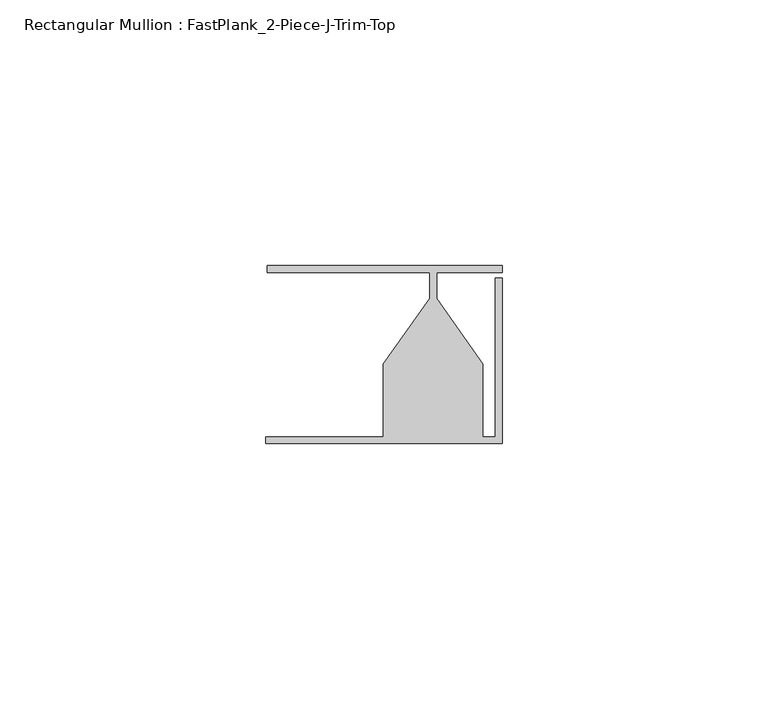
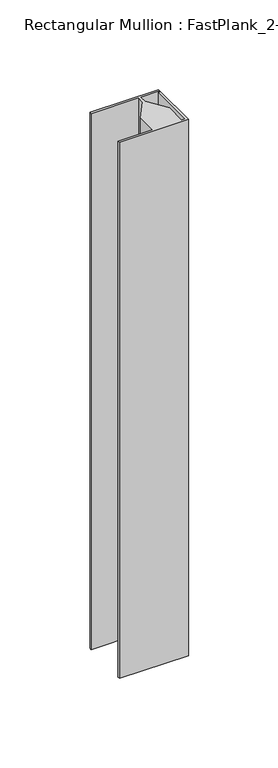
"""IFC4 building model written with IfcOpenShell, lengths in millimetres: member geometry, Rectangular Mullion : FastPlank_2-Piece-J-Trim-Top."""

import ifcopenshell
import ifcopenshell.guid

model = None  # the IFC model being written
_history = None  # IfcOwnerHistory: only IFC2X3 demands one
_inside = {}  # id of a spatial element -> (the spatial element, [elements in it])
_under = {}  # id of a project, library or spatial element -> (it, [spatial elements below it])
_declared = {}  # id of a project -> (the project, [libraries it declares])
_typed = {}  # id of a type object -> (the type object, [elements of that type])
_made_of = {}  # id of a material, layer set ... -> (it, [elements and type objects made of it])


def new_model(schema):
    """Start an empty IFC model of exactly this schema.

    Asked for "IFC4X3", IfcOpenShell would pick the latest addendum, in which some entities
    have other attributes; the version numbers below select the first issue.
    IFC2X3 requires an IfcOwnerHistory on every rooted entity: one is made here for all.
    """
    global model, _history
    if schema == "IFC4X3":
        model = ifcopenshell.file(schema_version=(4, 3, 0, 0))
    else:
        model = ifcopenshell.file(schema=schema)
    _inside.clear()
    _under.clear()
    _declared.clear()
    _typed.clear()
    _made_of.clear()
    _history = None
    if model.schema == "IFC2X3":
        org = make("IfcOrganization", Name="unknown")
        user = make(
            "IfcPersonAndOrganization",
            ThePerson=make("IfcPerson", FamilyName="unknown"),
            TheOrganization=org,
        )
        app = make(
            "IfcApplication",
            ApplicationDeveloper=org,
            Version="unknown",
            ApplicationFullName="unknown",
            ApplicationIdentifier="unknown",
        )
        _history = make(
            "IfcOwnerHistory",
            OwningUser=user,
            OwningApplication=app,
            ChangeAction="ADDED",
            CreationDate=0,
        )
    return model


def make(cls, **values):
    """One entity of the class cls with the attributes given. An attribute that is None is left unset."""
    return model.create_entity(
        cls, **{name: value for name, value in values.items() if value is not None}
    )


def rooted(cls, **values):
    """An entity with a GlobalId (a new one), such as an element, a storey or a relation."""
    return make(cls, GlobalId=ifcopenshell.guid.new(), OwnerHistory=_history, **values)


def si_unit(unit_type, name, prefix=None):
    """IfcSIUnit, for example si_unit("LENGTHUNIT", "METRE", prefix="MILLI")."""
    return make("IfcSIUnit", UnitType=unit_type, Prefix=prefix, Name=name)


def assignment(units):
    """IfcUnitAssignment: the units of a project."""
    return None if units is None else make("IfcUnitAssignment", Units=units)


def point(xyz):
    """IfcCartesianPoint."""
    return None if xyz is None else make("IfcCartesianPoint", Coordinates=xyz)


def direction(xyz):
    """IfcDirection."""
    return None if xyz is None else make("IfcDirection", DirectionRatios=xyz)


def frame(location, z_axis=None, x_axis=None):
    """IfcAxis2Placement3D, a coordinate frame: its origin and axes. An axis left out is left unset."""
    return make(
        "IfcAxis2Placement3D",
        Location=point(location),
        Axis=direction(z_axis),
        RefDirection=direction(x_axis),
    )


def origin():
    """The frame at (0, 0, 0) with its axes left unset."""
    return frame((0.0, 0.0, 0.0))


def place(relative_to, where):
    """IfcLocalPlacement: puts the frame where relative to a parent placement (None: the world)."""
    return make(
        "IfcLocalPlacement", PlacementRelTo=relative_to, RelativePlacement=where
    )


def context(
    kind, dimensions, precision=None, world=None, true_north=None, identifier=None
):
    """IfcGeometricRepresentationContext, for example the 3D "Model" context."""
    return make(
        "IfcGeometricRepresentationContext",
        ContextIdentifier=identifier,
        ContextType=kind,
        CoordinateSpaceDimension=dimensions,
        Precision=precision,
        WorldCoordinateSystem=world,
        TrueNorth=true_north,
    )


def project(units=None, contexts=None):
    """IfcProject with its units and contexts."""
    return rooted(
        "IfcProject",
        Name="project",
        RepresentationContexts=contexts,
        UnitsInContext=assignment(units),
    )


def spatial(cls, under=None, at=None, **own):
    """A site, building, storey or space (cls), placed at a placement, below another one or the project."""
    s = rooted(cls, ObjectPlacement=at, **own)
    if under is not None:
        _under.setdefault(under.id(), (under, []))[1].append(s)
    return s


def polyline(points):
    """IfcPolyline through the points."""
    return make("IfcPolyline", Points=[point(p) for p in points])


def outline(outer, holes=None, kind="AREA"):
    """IfcArbitraryClosedProfileDef: a profile drawn as a closed curve; with holes, ...WithVoids."""
    if holes is None:
        return make("IfcArbitraryClosedProfileDef", ProfileType=kind, OuterCurve=outer)
    return make(
        "IfcArbitraryProfileDefWithVoids",
        ProfileType=kind,
        OuterCurve=outer,
        InnerCurves=holes,
    )


def extrude(swept, where, along, depth):
    """IfcExtrudedAreaSolid: the profile swept, set in the frame where, extruded along a direction by depth."""
    return make(
        "IfcExtrudedAreaSolid",
        SweptArea=swept,
        Position=where,
        ExtrudedDirection=direction(along),
        Depth=depth,
    )


def shape(context_of_items, identifier, shape_type, items):
    """IfcShapeRepresentation: the items that make up one representation, for example the "Body"."""
    return make(
        "IfcShapeRepresentation",
        ContextOfItems=context_of_items,
        RepresentationIdentifier=identifier,
        RepresentationType=shape_type,
        Items=items,
    )


def source(mapping_origin, context_of_items, identifier, shape_type, items):
    """IfcRepresentationMap: a shape defined once, which mapped items show again and again."""
    return make(
        "IfcRepresentationMap",
        MappingOrigin=mapping_origin,
        MappedRepresentation=shape(context_of_items, identifier, shape_type, items),
    )


def transform(
    local_origin,
    x_axis=None,
    y_axis=None,
    z_axis=None,
    scale=None,
    scale2=None,
    scale3=None,
    uniform=True,
):
    """IfcCartesianTransformationOperator3D, or its non-uniform kind. x_axis, y_axis, z_axis: its Axis1, 2, 3."""
    if uniform:
        return make(
            "IfcCartesianTransformationOperator3D",
            Axis1=direction(x_axis),
            Axis2=direction(y_axis),
            LocalOrigin=point(local_origin),
            Scale=scale,
            Axis3=direction(z_axis),
        )
    return make(
        "IfcCartesianTransformationOperator3DnonUniform",
        Axis1=direction(x_axis),
        Axis2=direction(y_axis),
        LocalOrigin=point(local_origin),
        Scale=scale,
        Axis3=direction(z_axis),
        Scale2=scale2,
        Scale3=scale3,
    )


def mapped(mapping_source, mapping_target):
    """IfcMappedItem: shows the shape of a source again, moved by a transform."""
    return make(
        "IfcMappedItem", MappingSource=mapping_source, MappingTarget=mapping_target
    )


def made_of(thing, what):
    """Note that an element or type object is made of a material, layer set ...; save() writes the relation."""
    if what is not None:
        _made_of.setdefault(what.id(), (what, []))[1].append(thing)
    return thing


def element(
    cls,
    number,
    at=None,
    inside=None,
    cuts=None,
    type_object=None,
    material=None,
    context=None,
    identifier="Body",
    shape_type=None,
    held_by="IfcProductDefinitionShape",
    body=None,
    shapes=None,
    **own,
):
    """One element of the class cls, such as IfcWall. Its Tag is "e" and its number.

    at: its placement. inside: the storey or other place that contains it. cuts: it is an
    opening in that element (IfcRelVoidsElement). A single representation is given by context,
    identifier, shape_type and body (its items); several are given by shapes. held_by: the class
    of the entity that holds the representations. save() writes the other relations.
    """
    e = rooted(cls, Tag="e%d" % number, ObjectPlacement=at, **own)
    if body is not None:
        shapes = [shape(context, identifier, shape_type, body)]
    if shapes is not None:
        e.Representation = make(held_by, Representations=shapes)
    if inside is not None:
        _inside.setdefault(inside.id(), (inside, []))[1].append(e)
    if cuts is not None:
        rooted(
            "IfcRelVoidsElement", RelatingBuildingElement=cuts, RelatedOpeningElement=e
        )
    if type_object is not None:
        _typed.setdefault(type_object.id(), (type_object, []))[1].append(e)
    return made_of(e, material)


def aggregate(whole, parts):
    """IfcRelAggregates: a whole, such as a stair, and the parts it consists of."""
    return rooted("IfcRelAggregates", RelatingObject=whole, RelatedObjects=parts)


def save(model, path):
    """Write the relations noted so far, then the file.

    IfcRelAggregates (storeys below a building ...), IfcRelContainedInSpatialStructure (elements
    in a storey), IfcRelDefinesByType, IfcRelAssociatesMaterial and IfcRelDeclares: one each for
    every whole, place, type object, material and project.
    """
    for whole, parts in _under.values():
        aggregate(whole, parts)
    for where, things in _inside.values():
        rooted(
            "IfcRelContainedInSpatialStructure",
            RelatedElements=things,
            RelatingStructure=where,
        )
    for kind, things in _typed.values():
        rooted("IfcRelDefinesByType", RelatedObjects=things, RelatingType=kind)
    for what, things in _made_of.values():
        rooted("IfcRelAssociatesMaterial", RelatedObjects=things, RelatingMaterial=what)
    for by, libraries in _declared.values():
        rooted("IfcRelDeclares", RelatingContext=by, RelatedDefinitions=libraries)
    model.write(path)


def rectangular_mullion_fastplank_2_piece_j_trim_top_af0a0e51(model_context):
    return source(origin(), model_context, "Body", "SweptSolid", [
        extrude(outline(polyline([(0.0, 11.8625052), (0.0, 10.5618154), (-12.3176464, 10.5618154), (-12.3176464, 5.7038113), (-3.6053348, -6.6543757), (-3.6053348, -20.3381228), (-1.2999974, -20.3381228), (-1.2999974, 9.5619969), (0.0, 9.5619969), (0.0, -21.6381202), (-44.4475015, -21.6381202), (-44.4475015, -20.3381228), (-22.3299553, -20.3381228), (-22.3299553, -6.6543757), (-13.6176438, 5.7038113), (-13.6176438, 10.5618154), (-44.2023711, 10.5618154), (-44.2023711, 11.8625052), (0.0, 11.8625052)])), frame((0.0, 0.0, -365.1156655), z_axis=(0.0, 0.0, 1.0), x_axis=(1.0, 0.0, 0.0)), (0.0, 0.0, 1.0), 365.1156655),
    ])


if __name__ == "__main__":
    model = new_model("IFC4")
    model_context = context("Model", 3, world=origin())
    ifc_project = project(units=[si_unit("LENGTHUNIT", "METRE", prefix="MILLI")], contexts=[model_context])
    site = spatial("IfcSite", under=ifc_project)
    building = spatial("IfcBuilding", under=site)
    placement = place(None, origin())
    rectangular_mullion_fastplank_2_piece_j_trim_top_shape = rectangular_mullion_fastplank_2_piece_j_trim_top_af0a0e51(model_context)
    element("IfcMember", 1, ObjectType="Rectangular Mullion : FastPlank_2-Piece-J-Trim-Top", at=placement, inside=building, context=model_context, shape_type="MappedRepresentation", body=[
        mapped(rectangular_mullion_fastplank_2_piece_j_trim_top_shape, transform((0.0, 0.0, 0.0), x_axis=(1.0, 0.0, 0.0), y_axis=(0.0, 1.0, 0.0), z_axis=(0.0, 0.0, 1.0))),
    ])
    save(model, "model.ifc")
